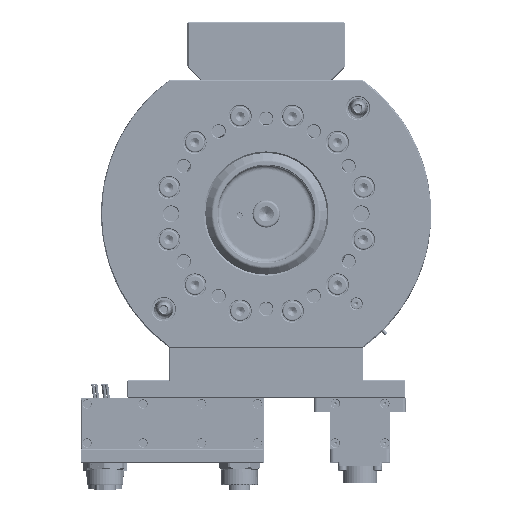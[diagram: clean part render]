
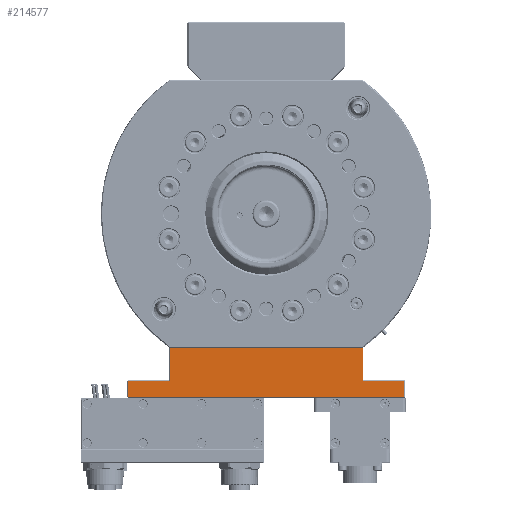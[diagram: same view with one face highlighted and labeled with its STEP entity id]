
A CAD part, top view. The second image highlights one B-rep face of the part: STEP entity #214577.
In plain terms, the highlighted planar face has unit normal (0, 0, 1).
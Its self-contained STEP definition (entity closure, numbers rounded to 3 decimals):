
#2471 = CARTESIAN_POINT ( 'NONE',  ( 90.678, -109.8, 96.8 ) ) ;
#3257 = ORIENTED_EDGE ( 'NONE', *, *, #186093, .T. ) ;
#3600 = EDGE_CURVE ( 'NONE', #69684, #125931, #18892, .T. ) ;
#8200 = VERTEX_POINT ( 'NONE', #409301 ) ;
#9144 = EDGE_CURVE ( 'NONE', #125931, #34197, #183485, .T. ) ;
#13896 = CARTESIAN_POINT ( 'NONE',  ( -63.422, -88., 96.8 ) ) ;
#14576 = EDGE_CURVE ( 'NONE', #406902, #196137, #263502, .T. ) ;
#18892 = LINE ( 'NONE', #400000, #39046 ) ;
#25188 = CARTESIAN_POINT ( 'NONE',  ( 90.678, -120.5, 96.8 ) ) ;
#31714 = EDGE_CURVE ( 'NONE', #50885, #406902, #114331, .T. ) ;
#31765 = DIRECTION ( 'NONE',  ( 1., 0., 0. ) ) ;
#33678 = EDGE_LOOP ( 'NONE', ( #257711, #3257, #229473, #396762, #407863, #173581, #117706, #187632 ) ) ;
#33962 = LINE ( 'NONE', #165785, #194498 ) ;
#34197 = VERTEX_POINT ( 'NONE', #96341 ) ;
#39046 = VECTOR ( 'NONE', #397243, 1000. ) ;
#41554 = FACE_OUTER_BOUND ( 'NONE', #33678, .T. ) ;
#49699 = DIRECTION ( 'NONE',  ( -1., 0., 0. ) ) ;
#50885 = VERTEX_POINT ( 'NONE', #25188 ) ;
#69684 = VERTEX_POINT ( 'NONE', #203765 ) ;
#96341 = CARTESIAN_POINT ( 'NONE',  ( -90.722, -120.5, 96.8 ) ) ;
#103487 = CARTESIAN_POINT ( 'NONE',  ( -91.222, -88., 96.8 ) ) ;
#114331 = LINE ( 'NONE', #385645, #299866 ) ;
#117706 = ORIENTED_EDGE ( 'NONE', *, *, #355597, .T. ) ;
#121614 = CARTESIAN_POINT ( 'NONE',  ( -90.722, -109.8, 96.8 ) ) ;
#125931 = VERTEX_POINT ( 'NONE', #121614 ) ;
#154021 = AXIS2_PLACEMENT_3D ( 'NONE', #103487, #263325, #267472 ) ;
#158731 = DIRECTION ( 'NONE',  ( 0., 1., 0. ) ) ;
#165579 = DIRECTION ( 'NONE',  ( -1., 0., 0. ) ) ;
#165785 = CARTESIAN_POINT ( 'NONE',  ( 63.378, -88., 96.8 ) ) ;
#168319 = DIRECTION ( 'NONE',  ( 0., -1., 0. ) ) ;
#173581 = ORIENTED_EDGE ( 'NONE', *, *, #236702, .T. ) ;
#183485 = LINE ( 'NONE', #223345, #369347 ) ;
#186093 = EDGE_CURVE ( 'NONE', #34197, #50885, #343541, .T. ) ;
#187632 = ORIENTED_EDGE ( 'NONE', *, *, #3600, .T. ) ;
#193837 = DIRECTION ( 'NONE',  ( 0., 1., 0. ) ) ;
#194498 = VECTOR ( 'NONE', #193837, 1000. ) ;
#196137 = VERTEX_POINT ( 'NONE', #209449 ) ;
#202946 = PLANE ( 'NONE',  #154021 ) ;
#203765 = CARTESIAN_POINT ( 'NONE',  ( -63.422, -109.8, 96.8 ) ) ;
#209449 = CARTESIAN_POINT ( 'NONE',  ( 63.378, -109.8, 96.8 ) ) ;
#212935 = VECTOR ( 'NONE', #168319, 1000. ) ;
#214577 = ADVANCED_FACE ( 'NONE', ( #41554 ), #202946, .F. ) ;
#223345 = CARTESIAN_POINT ( 'NONE',  ( -90.722, -88., 96.8 ) ) ;
#226050 = DIRECTION ( 'NONE',  ( 0., -1., 0. ) ) ;
#229473 = ORIENTED_EDGE ( 'NONE', *, *, #31714, .T. ) ;
#236044 = LINE ( 'NONE', #307696, #341402 ) ;
#236702 = EDGE_CURVE ( 'NONE', #326550, #8200, #236044, .T. ) ;
#257711 = ORIENTED_EDGE ( 'NONE', *, *, #9144, .T. ) ;
#257940 = LINE ( 'NONE', #13896, #212935 ) ;
#263325 = DIRECTION ( 'NONE',  ( 0., 0., -1. ) ) ;
#263502 = LINE ( 'NONE', #357648, #288435 ) ;
#267472 = DIRECTION ( 'NONE',  ( -1., 0., 0. ) ) ;
#273507 = CARTESIAN_POINT ( 'NONE',  ( 63.378, -88.5, 96.8 ) ) ;
#288435 = VECTOR ( 'NONE', #165579, 1000. ) ;
#299866 = VECTOR ( 'NONE', #158731, 1000. ) ;
#307696 = CARTESIAN_POINT ( 'NONE',  ( -63.422, -88.5, 96.8 ) ) ;
#326550 = VERTEX_POINT ( 'NONE', #273507 ) ;
#338991 = EDGE_CURVE ( 'NONE', #196137, #326550, #33962, .T. ) ;
#341402 = VECTOR ( 'NONE', #49699, 1000. ) ;
#343541 = LINE ( 'NONE', #354193, #373749 ) ;
#354193 = CARTESIAN_POINT ( 'NONE',  ( -91.222, -120.5, 96.8 ) ) ;
#355597 = EDGE_CURVE ( 'NONE', #8200, #69684, #257940, .T. ) ;
#357648 = CARTESIAN_POINT ( 'NONE',  ( -91.222, -109.8, 96.8 ) ) ;
#369347 = VECTOR ( 'NONE', #226050, 1000. ) ;
#373749 = VECTOR ( 'NONE', #31765, 1000. ) ;
#385645 = CARTESIAN_POINT ( 'NONE',  ( 90.678, -88., 96.8 ) ) ;
#396762 = ORIENTED_EDGE ( 'NONE', *, *, #14576, .T. ) ;
#397243 = DIRECTION ( 'NONE',  ( -1., 0., 0. ) ) ;
#400000 = CARTESIAN_POINT ( 'NONE',  ( -90.722, -109.8, 96.8 ) ) ;
#406902 = VERTEX_POINT ( 'NONE', #2471 ) ;
#407863 = ORIENTED_EDGE ( 'NONE', *, *, #338991, .T. ) ;
#409301 = CARTESIAN_POINT ( 'NONE',  ( -63.422, -88.5, 96.8 ) ) ;
